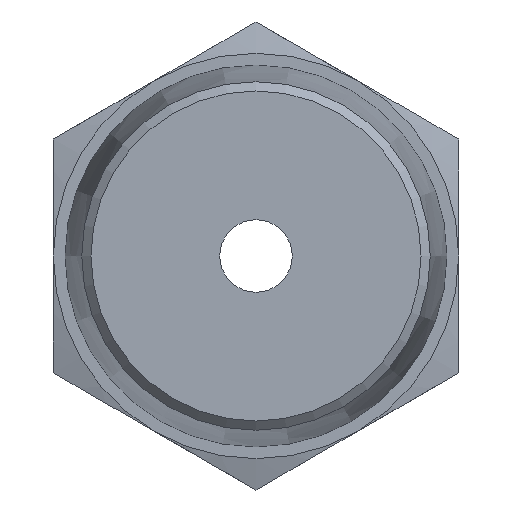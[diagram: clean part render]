
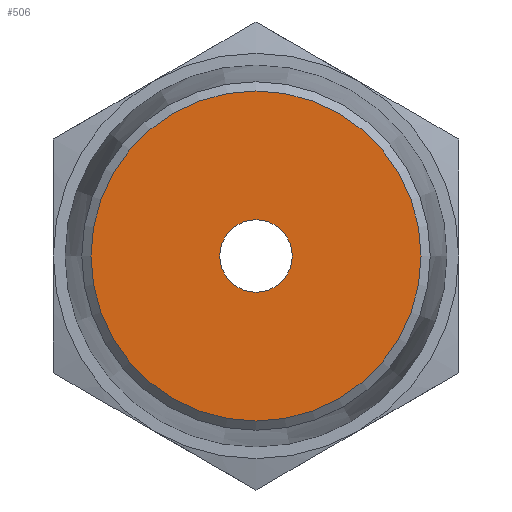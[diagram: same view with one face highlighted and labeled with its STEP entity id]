
A CAD part, front view. The second image highlights one B-rep face of the part: STEP entity #506.
In plain terms, the highlighted planar face has unit normal (0, -1, 0).
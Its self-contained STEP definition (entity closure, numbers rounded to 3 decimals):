
#57=FACE_BOUND('',#124,.T.);
#65=PLANE('',#579);
#84=FACE_OUTER_BOUND('',#123,.T.);
#123=EDGE_LOOP('',(#371));
#124=EDGE_LOOP('',(#372));
#191=CIRCLE('',#560,1.25);
#203=CIRCLE('',#578,5.7);
#225=VERTEX_POINT('',#792);
#236=VERTEX_POINT('',#824);
#270=EDGE_CURVE('',#225,#225,#191,.T.);
#286=EDGE_CURVE('',#236,#236,#203,.T.);
#371=ORIENTED_EDGE('',*,*,#286,.F.);
#372=ORIENTED_EDGE('',*,*,#270,.T.);
#506=ADVANCED_FACE('',(#84,#57),#65,.T.);
#560=AXIS2_PLACEMENT_3D('',#793,#634,#635);
#578=AXIS2_PLACEMENT_3D('',#826,#674,#675);
#579=AXIS2_PLACEMENT_3D('',#827,#676,#677);
#634=DIRECTION('center_axis',(0.,1.,0.));
#635=DIRECTION('ref_axis',(1.,0.,0.));
#674=DIRECTION('center_axis',(0.,1.,0.));
#675=DIRECTION('ref_axis',(-1.,0.,0.));
#676=DIRECTION('center_axis',(0.,-1.,0.));
#677=DIRECTION('ref_axis',(0.,0.,-1.));
#792=CARTESIAN_POINT('',(-1.25,-10.,0.));
#793=CARTESIAN_POINT('Origin',(0.,-10.,0.));
#824=CARTESIAN_POINT('',(5.7,-10.,0.));
#826=CARTESIAN_POINT('Origin',(0.,-10.,0.));
#827=CARTESIAN_POINT('Origin',(6.,-10.,0.));
